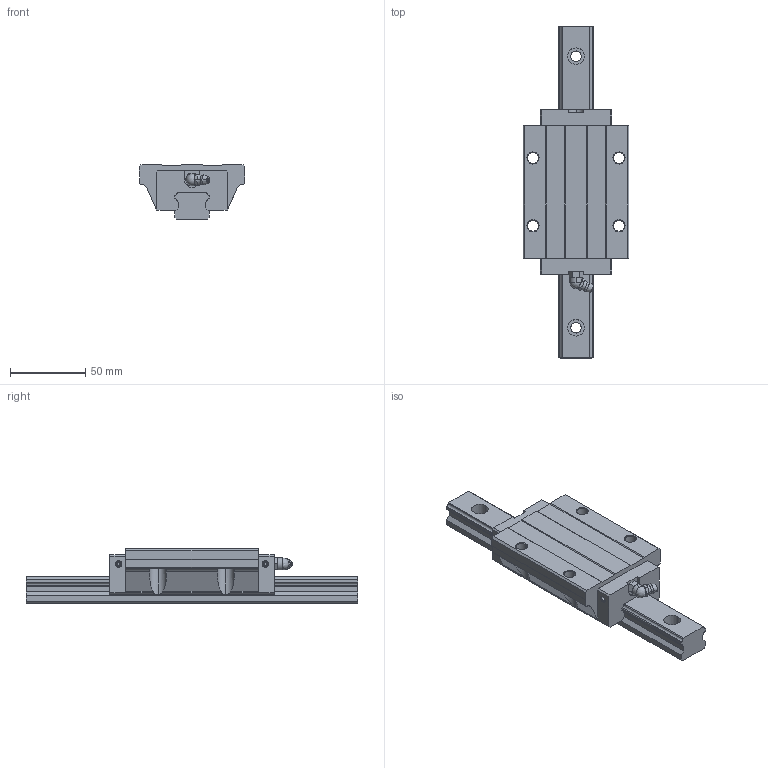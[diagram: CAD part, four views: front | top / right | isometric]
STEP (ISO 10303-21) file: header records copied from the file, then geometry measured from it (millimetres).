
FILE_DESCRIPTION((''),'1');
FILE_NAME(' ',' ',(''),(''),'ACIS Interop R16','Kubotek KeyCreator V6.5.2 (0407)',' ');
FILE_SCHEMA(('CONFIG_CONTROL_DESIGN'));
Length unit declared in the file: millimetre
Products named in the file (3): 1; 2; 3
Bounding box: 70 x 220 x 36 mm (x, y, z)
Volume: 155958.1 mm3; surface area: 46890.3 mm2
Topology: 2 solids, 48 shells, 250 faces, 793 edges, 603 vertices
Faces by surface type: plane 129, cylinder 88, cone 18, torus 10, sphere 3, bspline 2
Entity records: 9152 total; most frequent: CARTESIAN_POINT 1851, DIRECTION 1578, ORIENTED_EDGE 1322, EDGE_CURVE 791, VERTEX_POINT 603, AXIS2_PLACEMENT_3D 558, LINE 462, VECTOR 462
